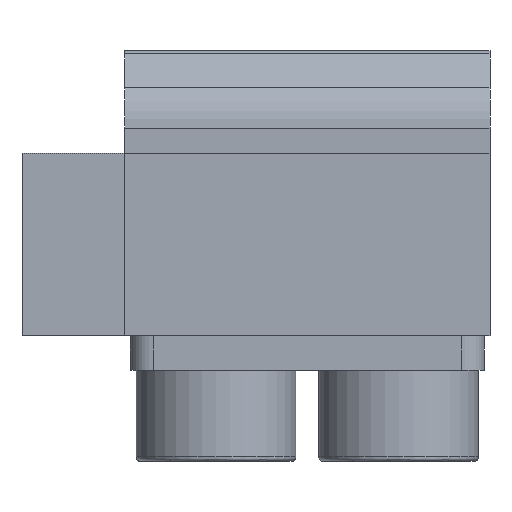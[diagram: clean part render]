
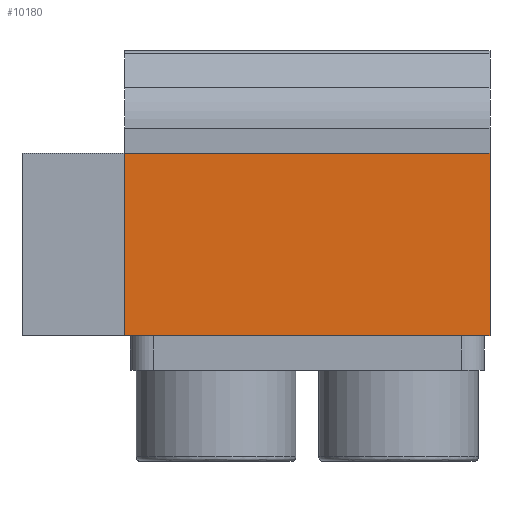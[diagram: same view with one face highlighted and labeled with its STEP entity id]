
A CAD part, front view. The second image highlights one B-rep face of the part: STEP entity #10180.
In plain terms, the highlighted planar face has unit normal (0, -1, 0).
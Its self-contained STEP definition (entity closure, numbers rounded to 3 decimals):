
#26 = ORIENTED_EDGE ( 'NONE', *, *, #7807, .F. ) ;
#428 = CARTESIAN_POINT ( 'NONE',  ( -34.58, -17.022, 12.904 ) ) ;
#1016 = DIRECTION ( 'NONE',  ( 0., 0., -1. ) ) ;
#1076 = EDGE_LOOP ( 'NONE', ( #4891, #26, #7843, #14689 ) ) ;
#1273 = VECTOR ( 'NONE', #5043, 1000. ) ;
#2391 = DIRECTION ( 'NONE',  ( -1., 0., 0. ) ) ;
#2673 = VERTEX_POINT ( 'NONE', #3669 ) ;
#3669 = CARTESIAN_POINT ( 'NONE',  ( -24.33, -17.022, 20.904 ) ) ;
#3987 = AXIS2_PLACEMENT_3D ( 'NONE', #4811, #15389, #1016 ) ;
#4811 = CARTESIAN_POINT ( 'NONE',  ( -40.33, -17.022, 20.904 ) ) ;
#4891 = ORIENTED_EDGE ( 'NONE', *, *, #10196, .F. ) ;
#5043 = DIRECTION ( 'NONE',  ( 0., 0., 1. ) ) ;
#5146 = CARTESIAN_POINT ( 'NONE',  ( -24.33, -17.022, 16.904 ) ) ;
#5330 = FACE_OUTER_BOUND ( 'NONE', #1076, .T. ) ;
#5852 = EDGE_CURVE ( 'NONE', #2673, #12101, #16789, .T. ) ;
#6430 = DIRECTION ( 'NONE',  ( 0., 0., -1. ) ) ;
#7807 = EDGE_CURVE ( 'NONE', #12101, #16163, #12636, .T. ) ;
#7843 = ORIENTED_EDGE ( 'NONE', *, *, #5852, .F. ) ;
#8103 = LINE ( 'NONE', #8713, #16721 ) ;
#8713 = CARTESIAN_POINT ( 'NONE',  ( -32.33, -17.022, 20.904 ) ) ;
#8725 = CARTESIAN_POINT ( 'NONE',  ( -40.33, -17.022, 12.904 ) ) ;
#8985 = VECTOR ( 'NONE', #6430, 1000. ) ;
#10180 = ADVANCED_FACE ( 'NONE', ( #5330 ), #11510, .T. ) ;
#10196 = EDGE_CURVE ( 'NONE', #16163, #10501, #15353, .T. ) ;
#10501 = VERTEX_POINT ( 'NONE', #15930 ) ;
#11503 = EDGE_CURVE ( 'NONE', #2673, #10501, #8103, .T. ) ;
#11510 = PLANE ( 'NONE',  #3987 ) ;
#12101 = VERTEX_POINT ( 'NONE', #12694 ) ;
#12636 = LINE ( 'NONE', #428, #13848 ) ;
#12694 = CARTESIAN_POINT ( 'NONE',  ( -24.33, -17.022, 12.904 ) ) ;
#13848 = VECTOR ( 'NONE', #14813, 1000. ) ;
#13989 = CARTESIAN_POINT ( 'NONE',  ( -40.33, -17.022, 16.904 ) ) ;
#14689 = ORIENTED_EDGE ( 'NONE', *, *, #11503, .T. ) ;
#14813 = DIRECTION ( 'NONE',  ( -1., 0., 0. ) ) ;
#15353 = LINE ( 'NONE', #13989, #1273 ) ;
#15389 = DIRECTION ( 'NONE',  ( 0., -1., 0. ) ) ;
#15930 = CARTESIAN_POINT ( 'NONE',  ( -40.33, -17.022, 20.904 ) ) ;
#16163 = VERTEX_POINT ( 'NONE', #8725 ) ;
#16721 = VECTOR ( 'NONE', #2391, 1000. ) ;
#16789 = LINE ( 'NONE', #5146, #8985 ) ;
